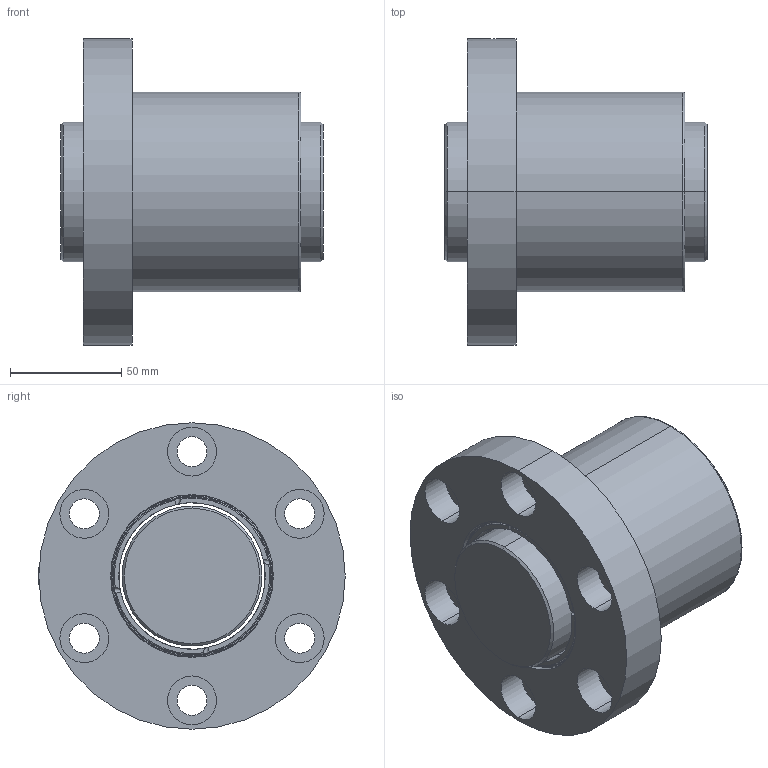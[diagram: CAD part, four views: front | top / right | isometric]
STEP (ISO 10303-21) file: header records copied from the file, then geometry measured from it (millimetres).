
FILE_DESCRIPTION (( 'STEP AP203' ), '1' );
FILE_NAME ('SFZR06310T4N-C.STEP', '2020-06-18T01:03:33', ( '' ), ( '' ), 'SwSTEP 2.0', 'SolidWorks 2013', '' );
FILE_SCHEMA (( 'CONFIG_CONTROL_DESIGN' ));
Length unit declared in the file: millimetre
Products named in the file (1): SFZR06310T4N-C
Bounding box: 118 x 138 x 138 mm (x, y, z)
Volume: 799943.5 mm3; surface area: 117633.4 mm2
Topology: 2 solids, 2 shells, 116 faces, 280 edges, 178 vertices
Faces by surface type: cylinder 66, plane 26, torus 20, cone 4
Entity records: 3965 total; most frequent: CARTESIAN_POINT 1085, DIRECTION 628, ORIENTED_EDGE 560, EDGE_CURVE 280, AXIS2_PLACEMENT_3D 277, VERTEX_POINT 178, CIRCLE 160, EDGE_LOOP 144
